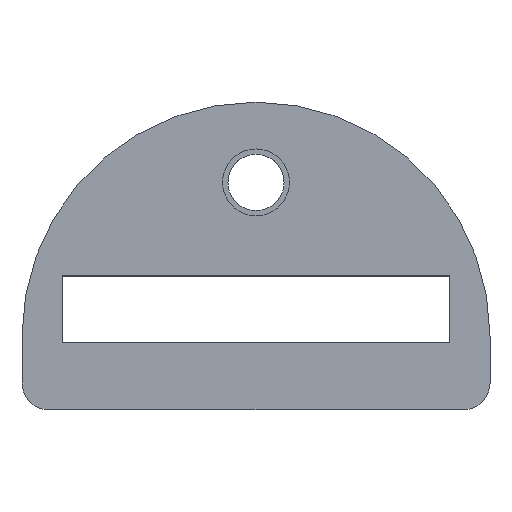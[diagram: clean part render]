
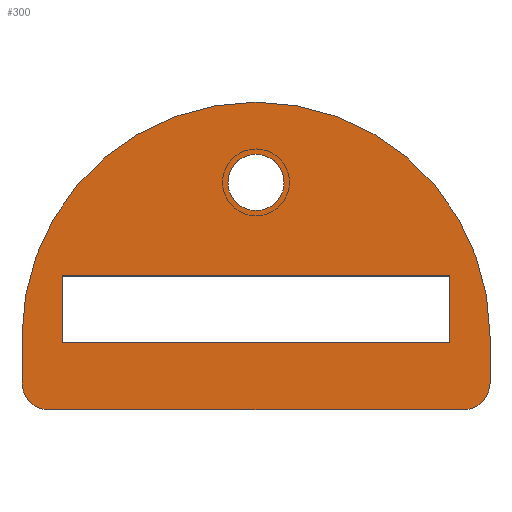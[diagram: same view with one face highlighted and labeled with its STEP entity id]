
A CAD part, top view. The second image highlights one B-rep face of the part: STEP entity #300.
In plain terms, the highlighted planar face has unit normal (0, 0, 1).
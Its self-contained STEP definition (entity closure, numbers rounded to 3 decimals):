
#62=CARTESIAN_POINT('',(0.,0.,2.5));
#63=DIRECTION('',(0.,0.,-1.));
#64=DIRECTION('',(1.,0.,0.));
#65=AXIS2_PLACEMENT_3D('',#62,#63,#64);
#67=CARTESIAN_POINT('',(0.,0.,2.5));
#68=DIRECTION('',(0.,0.,-1.));
#69=DIRECTION('',(-1.,0.,0.));
#70=AXIS2_PLACEMENT_3D('',#67,#68,#69);
#72=DIRECTION('',(1.,0.,0.));
#73=VECTOR('',#72,29.);
#74=CARTESIAN_POINT('',(-14.5,-7.,2.5));
#75=LINE('',#74,#73);
#76=DIRECTION('',(0.,1.,0.));
#77=VECTOR('',#76,5.);
#78=CARTESIAN_POINT('',(-14.5,-12.,2.5));
#79=LINE('',#78,#77);
#80=DIRECTION('',(-1.,0.,0.));
#81=VECTOR('',#80,29.);
#82=CARTESIAN_POINT('',(14.5,-12.,2.5));
#83=LINE('',#82,#81);
#84=DIRECTION('',(0.,-1.,0.));
#85=VECTOR('',#84,5.);
#86=CARTESIAN_POINT('',(14.5,-7.,2.5));
#87=LINE('',#86,#85);
#88=CARTESIAN_POINT('',(-15.5,-15.,2.5));
#89=DIRECTION('',(0.,0.,1.));
#90=DIRECTION('',(-1.,0.,0.));
#91=AXIS2_PLACEMENT_3D('',#88,#89,#90);
#93=DIRECTION('',(0.,-1.,0.));
#94=VECTOR('',#93,3.5);
#95=CARTESIAN_POINT('',(-17.5,-11.5,2.5));
#96=LINE('',#95,#94);
#97=CARTESIAN_POINT('',(0.,-11.5,2.5));
#98=DIRECTION('',(0.,0.,1.));
#99=DIRECTION('',(1.,0.,0.));
#100=AXIS2_PLACEMENT_3D('',#97,#98,#99);
#102=DIRECTION('',(0.,1.,0.));
#103=VECTOR('',#102,3.5);
#104=CARTESIAN_POINT('',(17.5,-15.,2.5));
#105=LINE('',#104,#103);
#106=CARTESIAN_POINT('',(15.5,-15.,2.5));
#107=DIRECTION('',(0.,0.,1.));
#108=DIRECTION('',(0.,-1.,0.));
#109=AXIS2_PLACEMENT_3D('',#106,#107,#108);
#111=DIRECTION('',(1.,0.,0.));
#112=VECTOR('',#111,31.);
#113=CARTESIAN_POINT('',(-15.5,-17.,2.5));
#114=LINE('',#113,#112);
#167=CARTESIAN_POINT('',(2.1,0.,2.5));
#168=CARTESIAN_POINT('',(-2.1,0.,2.5));
#169=VERTEX_POINT('',#167);
#170=VERTEX_POINT('',#168);
#171=CARTESIAN_POINT('',(-14.5,-7.,2.5));
#172=CARTESIAN_POINT('',(14.5,-7.,2.5));
#173=VERTEX_POINT('',#171);
#174=VERTEX_POINT('',#172);
#175=CARTESIAN_POINT('',(14.5,-12.,2.5));
#176=VERTEX_POINT('',#175);
#177=CARTESIAN_POINT('',(-14.5,-12.,2.5));
#178=VERTEX_POINT('',#177);
#183=CARTESIAN_POINT('',(-17.5,-15.,2.5));
#184=VERTEX_POINT('',#183);
#185=CARTESIAN_POINT('',(-15.5,-17.,2.5));
#186=VERTEX_POINT('',#185);
#191=CARTESIAN_POINT('',(15.5,-17.,2.5));
#192=VERTEX_POINT('',#191);
#193=CARTESIAN_POINT('',(17.5,-15.,2.5));
#194=VERTEX_POINT('',#193);
#199=CARTESIAN_POINT('',(-17.5,-11.5,2.5));
#200=VERTEX_POINT('',#199);
#201=CARTESIAN_POINT('',(17.5,-11.5,2.5));
#202=VERTEX_POINT('',#201);
#267=CARTESIAN_POINT('',(0.,0.,2.5));
#268=DIRECTION('',(0.,0.,1.));
#269=DIRECTION('',(1.,0.,0.));
#270=AXIS2_PLACEMENT_3D('',#267,#268,#269);
#271=PLANE('',#270);
#273=ORIENTED_EDGE('',*,*,#272,.F.);
#275=ORIENTED_EDGE('',*,*,#274,.F.);
#277=ORIENTED_EDGE('',*,*,#276,.F.);
#279=ORIENTED_EDGE('',*,*,#278,.F.);
#281=ORIENTED_EDGE('',*,*,#280,.F.);
#283=ORIENTED_EDGE('',*,*,#282,.F.);
#284=EDGE_LOOP('',(#273,#275,#277,#279,#281,#283));
#285=FACE_OUTER_BOUND('',#284,.F.);
#287=ORIENTED_EDGE('',*,*,#286,.F.);
#289=ORIENTED_EDGE('',*,*,#288,.F.);
#291=ORIENTED_EDGE('',*,*,#290,.F.);
#293=ORIENTED_EDGE('',*,*,#292,.F.);
#294=EDGE_LOOP('',(#287,#289,#291,#293));
#295=FACE_BOUND('',#294,.F.);
#296=ORIENTED_EDGE('',*,*,#247,.F.);
#297=ORIENTED_EDGE('',*,*,#261,.F.);
#298=EDGE_LOOP('',(#296,#297));
#299=FACE_BOUND('',#298,.F.);
#300=ADVANCED_FACE('',(#285,#295,#299),#271,.T.);
#66=CIRCLE('',#65,2.1);
#71=CIRCLE('',#70,2.1);
#92=CIRCLE('',#91,2.);
#101=CIRCLE('',#100,17.5);
#110=CIRCLE('',#109,2.);
#247=EDGE_CURVE('',#169,#170,#66,.T.);
#261=EDGE_CURVE('',#170,#169,#71,.T.);
#272=EDGE_CURVE('',#184,#186,#92,.T.);
#274=EDGE_CURVE('',#200,#184,#96,.T.);
#276=EDGE_CURVE('',#202,#200,#101,.T.);
#278=EDGE_CURVE('',#194,#202,#105,.T.);
#280=EDGE_CURVE('',#192,#194,#110,.T.);
#282=EDGE_CURVE('',#186,#192,#114,.T.);
#286=EDGE_CURVE('',#173,#174,#75,.T.);
#288=EDGE_CURVE('',#178,#173,#79,.T.);
#290=EDGE_CURVE('',#176,#178,#83,.T.);
#292=EDGE_CURVE('',#174,#176,#87,.T.);
